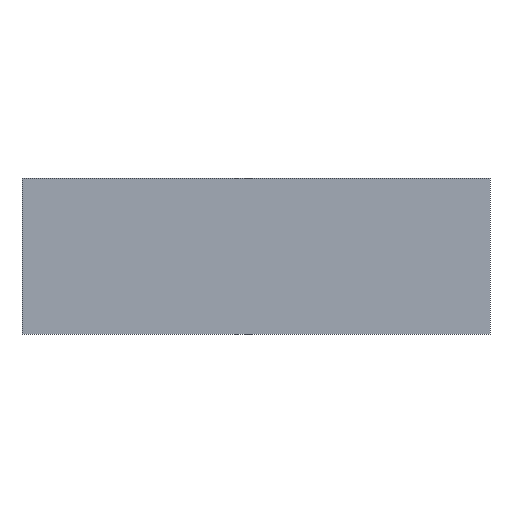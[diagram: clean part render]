
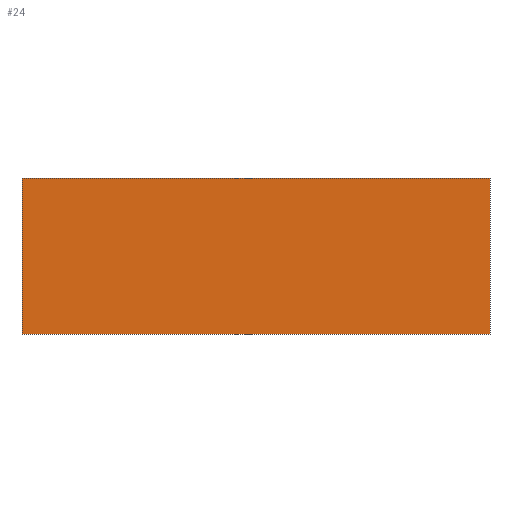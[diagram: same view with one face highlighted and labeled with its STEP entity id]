
A CAD part, front view. The second image highlights one B-rep face of the part: STEP entity #24.
In plain terms, the highlighted planar face has unit normal (0, -1, 0).
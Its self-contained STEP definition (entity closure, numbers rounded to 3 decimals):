
#18 = CARTESIAN_POINT ( 'NONE',  ( -51.983, 0., -7.155 ) ) ;
#19 = CARTESIAN_POINT ( 'NONE',  ( -51.983, 0., -17.155 ) ) ;
#21 = VERTEX_POINT ( 'NONE', #228 ) ;
#24 = ADVANCED_FACE ( 'NONE', ( #127 ), #63, .F. ) ;
#27 = EDGE_CURVE ( 'NONE', #150, #98, #180, .T. ) ;
#36 = LINE ( 'NONE', #110, #126 ) ;
#38 = CARTESIAN_POINT ( 'NONE',  ( -21.983, 0., -17.155 ) ) ;
#49 = CARTESIAN_POINT ( 'NONE',  ( -51.983, 0., -17.155 ) ) ;
#50 = CARTESIAN_POINT ( 'NONE',  ( 0., 0., 0. ) ) ;
#52 = VECTOR ( 'NONE', #233, 1000. ) ;
#58 = ORIENTED_EDGE ( 'NONE', *, *, #155, .F. ) ;
#63 = PLANE ( 'NONE',  #230 ) ;
#73 = ORIENTED_EDGE ( 'NONE', *, *, #138, .F. ) ;
#86 = DIRECTION ( 'NONE',  ( 1., 0., 0. ) ) ;
#92 = DIRECTION ( 'NONE',  ( 0., 0., 1. ) ) ;
#96 = LINE ( 'NONE', #18, #212 ) ;
#98 = VERTEX_POINT ( 'NONE', #218 ) ;
#110 = CARTESIAN_POINT ( 'NONE',  ( -21.983, 0., -17.155 ) ) ;
#126 = VECTOR ( 'NONE', #182, 1000. ) ;
#127 = FACE_OUTER_BOUND ( 'NONE', #205, .T. ) ;
#131 = ORIENTED_EDGE ( 'NONE', *, *, #27, .F. ) ;
#132 = VERTEX_POINT ( 'NONE', #38 ) ;
#138 = EDGE_CURVE ( 'NONE', #21, #132, #36, .T. ) ;
#150 = VERTEX_POINT ( 'NONE', #19 ) ;
#155 = EDGE_CURVE ( 'NONE', #98, #21, #96, .T. ) ;
#158 = DIRECTION ( 'NONE',  ( 0., 1., 0. ) ) ;
#163 = CARTESIAN_POINT ( 'NONE',  ( -51.983, 0., -17.155 ) ) ;
#176 = DIRECTION ( 'NONE',  ( -1., 0., 0. ) ) ;
#180 = LINE ( 'NONE', #163, #52 ) ;
#181 = ORIENTED_EDGE ( 'NONE', *, *, #197, .F. ) ;
#182 = DIRECTION ( 'NONE',  ( 0., 0., -1. ) ) ;
#192 = VECTOR ( 'NONE', #176, 1000. ) ;
#197 = EDGE_CURVE ( 'NONE', #132, #150, #208, .T. ) ;
#205 = EDGE_LOOP ( 'NONE', ( #131, #181, #73, #58 ) ) ;
#208 = LINE ( 'NONE', #49, #192 ) ;
#212 = VECTOR ( 'NONE', #86, 1000. ) ;
#218 = CARTESIAN_POINT ( 'NONE',  ( -51.983, 0., -7.155 ) ) ;
#228 = CARTESIAN_POINT ( 'NONE',  ( -21.983, 0., -7.155 ) ) ;
#230 = AXIS2_PLACEMENT_3D ( 'NONE', #50, #158, #92 ) ;
#233 = DIRECTION ( 'NONE',  ( 0., 0., 1. ) ) ;
